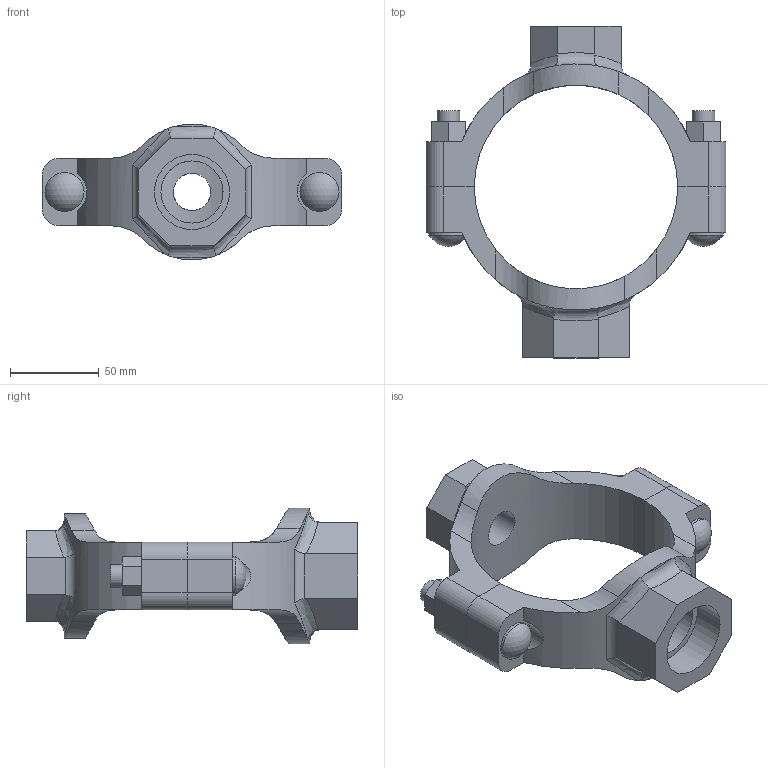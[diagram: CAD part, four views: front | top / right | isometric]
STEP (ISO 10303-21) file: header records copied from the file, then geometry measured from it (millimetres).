
FILE_DESCRIPTION(/* description */ ('VIC MECH-T BRANCH OUTLET CROSS STYLE 920N (THD)','CAx-IF Rec.Pracs.---Representation and Presentation of Product Manufacturing Information (PMI)---4.0---2014-10-13'),/* implementation_level */ '2;1');
FILE_NAME(/* name */ 'C:\Users\Vjadhav\AppData\Roaming\Autodesk\ApplicationPlugins\Back Up\Victaulic_IPS_Mechanical-Cross Outlet_Style 920N (FPT)\Victaulic_IPS_Mechanical-Cross Outlet_04.0x0.75x01.25 (100x20x32).stp',/* time_stamp */ '2020-08-06T18:58:11+05:00',/* author */ ('Vjadhav'),/* organization */ ('Victaulic'),/* preprocessor_version */ 'ST-DEVELOPER v17.2',/* originating_system */ 'Autodesk Inventor 2019',/* authorisation */ '');
FILE_SCHEMA (('AP242_MANAGED_MODEL_BASED_3D_ENGINEERING_MIM_LF { 1 0 10303 442 1 1 4 }'));
Length unit declared in the file: inch
Products named in the file (3): 920NT-04.0x0.75x01.25; 920NT-04.0x0.75; 920NT-04.0x01.25
Assembly tree (2 placements, depth 2):
  920NT-04.0x0.75x01.25
    920NT-04.0x0.75
    920NT-04.0x01.25
Bounding box: 168.4 x 186.44 x 76.18 mm (x, y, z)
Volume: 357842 mm3; surface area: 82756.1 mm2
Topology: 2 solids, 2 shells, 135 faces, 362 edges, 244 vertices
Faces by surface type: plane 68, cylinder 53, bspline 8, torus 4, sphere 2
Full cylindrical faces by diameter (mm): 12.7 x4, 20.93 x1, 21.982 x2, 26.67 x1, 34.925 x1, 42.164 x1
Entity records: 5381 total; most frequent: CARTESIAN_POINT 1790, ORIENTED_EDGE 724, DIRECTION 654, EDGE_CURVE 362, VERTEX_POINT 244, AXIS2_PLACEMENT_3D 234, LINE 186, VECTOR 186
